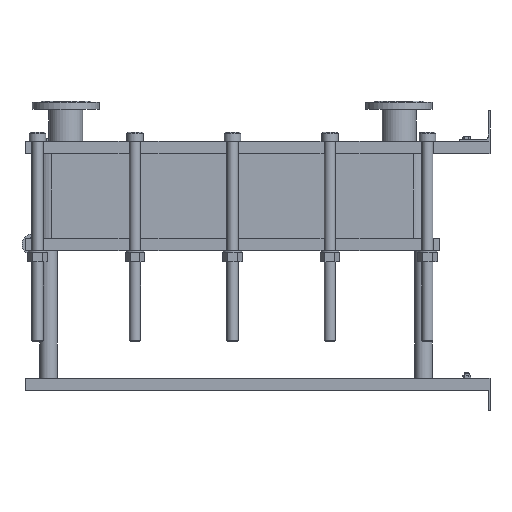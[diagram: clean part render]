
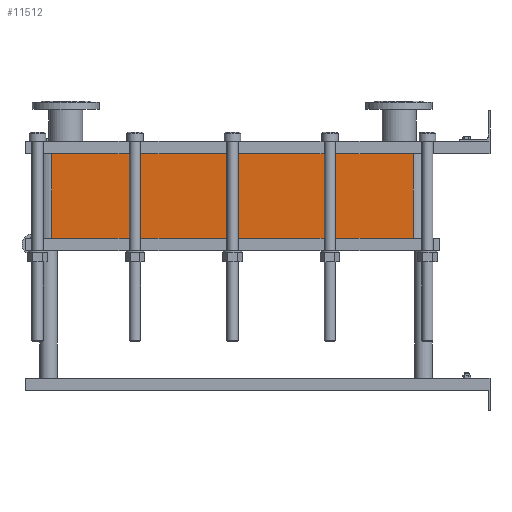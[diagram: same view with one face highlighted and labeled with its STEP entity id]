
A CAD part, left-side view. The second image highlights one B-rep face of the part: STEP entity #11512.
In plain terms, the highlighted planar face has unit normal (-1, 0, 0).
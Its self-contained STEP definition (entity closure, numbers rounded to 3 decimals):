
#1129=LINE('',#23232,#2102);
#1130=LINE('',#23236,#2103);
#1131=LINE('',#23238,#2104);
#1132=LINE('',#23239,#2105);
#2102=VECTOR('',#15887,10.);
#2103=VECTOR('',#15892,10.);
#2104=VECTOR('',#15893,10.);
#2105=VECTOR('',#15894,10.);
#3267=FACE_OUTER_BOUND('',#4093,.T.);
#4093=EDGE_LOOP('',(#10103,#10104,#10105,#10106));
#5642=VERTEX_POINT('',#23229);
#5643=VERTEX_POINT('',#23231);
#5644=VERTEX_POINT('',#23235);
#5645=VERTEX_POINT('',#23237);
#7159=EDGE_CURVE('',#5643,#5642,#1129,.T.);
#7161=EDGE_CURVE('',#5642,#5644,#1130,.T.);
#7162=EDGE_CURVE('',#5645,#5644,#1131,.T.);
#7163=EDGE_CURVE('',#5645,#5643,#1132,.T.);
#10103=ORIENTED_EDGE('',*,*,#7161,.T.);
#10104=ORIENTED_EDGE('',*,*,#7162,.F.);
#10105=ORIENTED_EDGE('',*,*,#7163,.T.);
#10106=ORIENTED_EDGE('',*,*,#7159,.T.);
#10857=PLANE('',#12751);
#11512=ADVANCED_FACE('',(#3267),#10857,.T.);
#12751=AXIS2_PLACEMENT_3D('',#23234,#15890,#15891);
#15887=DIRECTION('',(0.,0.,-1.));
#15890=DIRECTION('center_axis',(-1.,0.,0.));
#15891=DIRECTION('ref_axis',(0.,1.,0.));
#15892=DIRECTION('',(0.,-1.,0.));
#15893=DIRECTION('',(0.,0.,-1.));
#15894=DIRECTION('',(0.,1.,0.));
#23229=CARTESIAN_POINT('',(-200.,1414.,-272.55));
#23231=CARTESIAN_POINT('',(-200.,1414.,0.));
#23232=CARTESIAN_POINT('',(-200.,1414.,0.));
#23234=CARTESIAN_POINT('Origin',(-200.,248.,0.));
#23235=CARTESIAN_POINT('',(-200.,248.,-272.55));
#23236=CARTESIAN_POINT('',(-200.,539.5,-272.55));
#23237=CARTESIAN_POINT('',(-200.,248.,0.));
#23238=CARTESIAN_POINT('',(-200.,248.,0.));
#23239=CARTESIAN_POINT('',(-200.,248.,0.));
